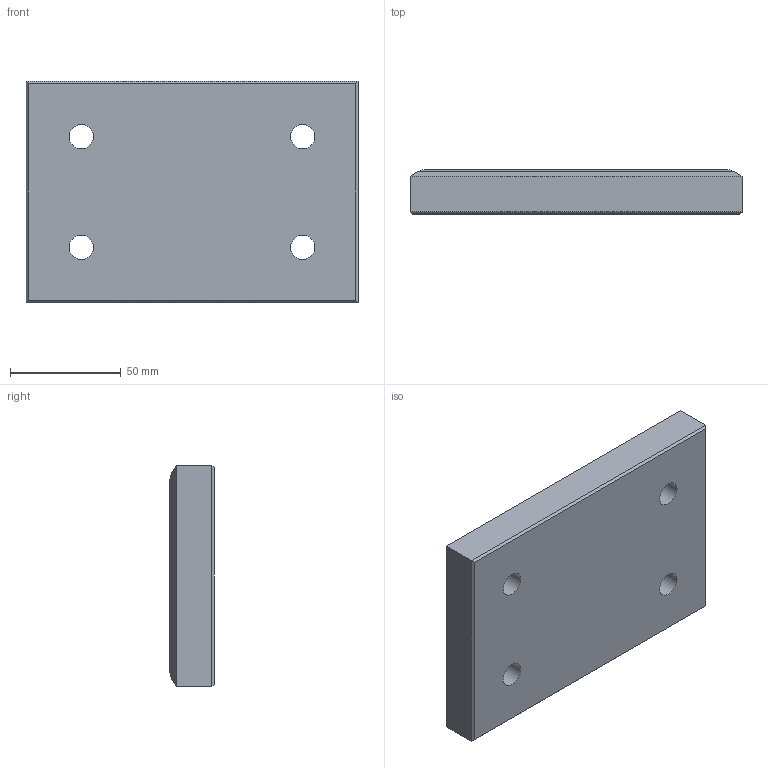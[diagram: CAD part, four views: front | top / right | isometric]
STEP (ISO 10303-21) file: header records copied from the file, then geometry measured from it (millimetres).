
FILE_DESCRIPTION(/* description */ ('Impex Ready, www.impex-ready.pl'),/* implementation_level */ '2;1');
FILE_NAME(/* name */ 'C:\Users\VIKKY\Nextcloud\SM\projekt 10 - części na stronę internetową\Pliki_3D_new\318 Płytki PG10\318 PG10_STEP\PG10.100150.ipt.step',/* time_stamp */ '2021-12-21T18:22:12+01:00',/* author */ ('SM'),/* organization */ (''),/* preprocessor_version */ 'ST-DEVELOPER v18.1',/* originating_system */ 'Autodesk Inventor 2021',/* authorisation */ '');
FILE_SCHEMA (('AUTOMOTIVE_DESIGN { 1 0 10303 214 3 1 1 }'));
Length unit declared in the file: millimetre
Products named in the file (1): PG10.100150
Bounding box: 150 x 20 x 100 mm (x, y, z)
Volume: 280863.1 mm3; surface area: 41569.4 mm2
Topology: 1 solids, 1 shells, 34 faces, 72 edges, 44 vertices
Faces by surface type: plane 18, cylinder 12, torus 4
Full cylindrical faces by diameter (mm): 11 x4, 18 x4
Entity records: 1021 total; most frequent: DIRECTION 174, CARTESIAN_POINT 151, ORIENTED_EDGE 144, EDGE_CURVE 72, AXIS2_PLACEMENT_3D 67, EDGE_LOOP 46, VERTEX_POINT 44, LINE 40
